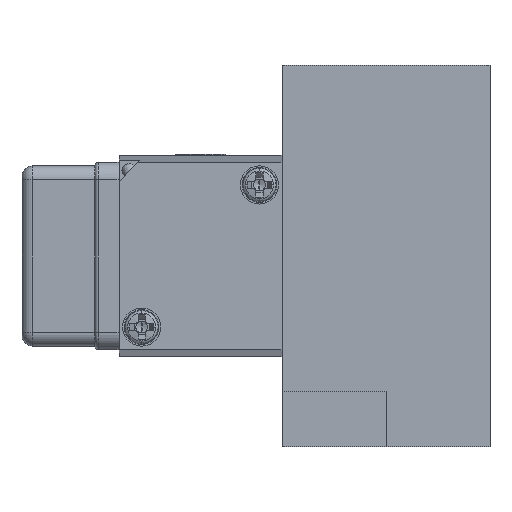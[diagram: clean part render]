
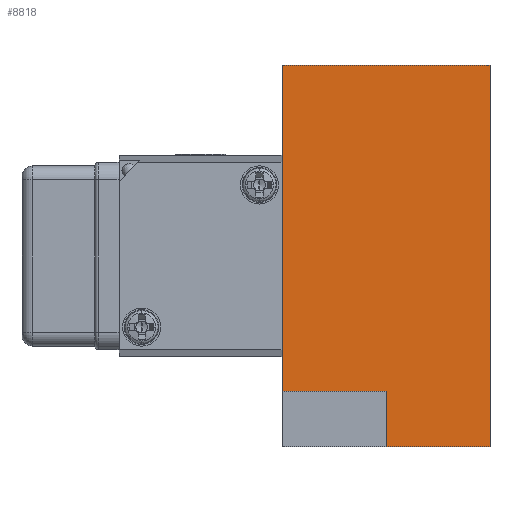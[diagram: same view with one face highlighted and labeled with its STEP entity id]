
A CAD part, left-side view. The second image highlights one B-rep face of the part: STEP entity #8818.
In plain terms, the highlighted planar face has unit normal (-1, 0, 0).
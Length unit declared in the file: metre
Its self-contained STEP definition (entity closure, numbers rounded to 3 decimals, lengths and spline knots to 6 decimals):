
#99 = ORIENTED_EDGE ( 'NONE', *, *, #844, .F. ) ;
#693 = VERTEX_POINT ( 'NONE', #12925 ) ;
#713 = CARTESIAN_POINT ( 'NONE',  ( -0.034, 0., 0. ) ) ;
#740 = EDGE_CURVE ( 'NONE', #10134, #4775, #10029, .T. ) ;
#800 = DIRECTION ( 'NONE',  ( 0., 0., 1. ) ) ;
#804 = EDGE_CURVE ( 'NONE', #4775, #693, #9133, .T. ) ;
#821 = LINE ( 'NONE', #1940, #3301 ) ;
#844 = EDGE_CURVE ( 'NONE', #2162, #10134, #821, .T. ) ;
#1090 = EDGE_CURVE ( 'NONE', #1776, #2162, #7794, .T. ) ;
#1110 = EDGE_CURVE ( 'NONE', #1776, #4323, #2172, .T. ) ;
#1112 = EDGE_CURVE ( 'NONE', #4323, #693, #9728, .T. ) ;
#1414 = CARTESIAN_POINT ( 'NONE',  ( -0.034, 0., -0.0195 ) ) ;
#1540 = DIRECTION ( 'NONE',  ( 0., 1., 0. ) ) ;
#1776 = VERTEX_POINT ( 'NONE', #5858 ) ;
#1830 = VECTOR ( 'NONE', #5567, 1. ) ;
#1849 = DIRECTION ( 'NONE',  ( 0., 1., 0. ) ) ;
#1940 = CARTESIAN_POINT ( 'NONE',  ( -0.034, 0., -0.0275 ) ) ;
#2162 = VERTEX_POINT ( 'NONE', #10746 ) ;
#2172 = LINE ( 'NONE', #5526, #7150 ) ;
#2178 = DIRECTION ( 'NONE',  ( 0., 0., -1. ) ) ;
#2363 = CARTESIAN_POINT ( 'NONE',  ( -0.034, 0., -0.0195 ) ) ;
#3301 = VECTOR ( 'NONE', #1849, 1. ) ;
#4323 = VERTEX_POINT ( 'NONE', #7653 ) ;
#4686 = ORIENTED_EDGE ( 'NONE', *, *, #804, .F. ) ;
#4775 = VERTEX_POINT ( 'NONE', #2363 ) ;
#5307 = CARTESIAN_POINT ( 'NONE',  ( -0.034, -0.015, 0. ) ) ;
#5355 = DIRECTION ( 'NONE',  ( 0., 0., -1. ) ) ;
#5358 = AXIS2_PLACEMENT_3D ( 'NONE', #10983, #8135, #2178 ) ;
#5402 = DIRECTION ( 'NONE',  ( 0., 1., 0. ) ) ;
#5491 = VECTOR ( 'NONE', #800, 1. ) ;
#5496 = CARTESIAN_POINT ( 'NONE',  ( -0.034, 0.015, 0. ) ) ;
#5526 = CARTESIAN_POINT ( 'NONE',  ( -0.034, 0., 0.0275 ) ) ;
#5567 = DIRECTION ( 'NONE',  ( 0., 0., -1. ) ) ;
#5858 = CARTESIAN_POINT ( 'NONE',  ( -0.034, -0.015, 0.0275 ) ) ;
#6181 = FACE_OUTER_BOUND ( 'NONE', #11357, .T. ) ;
#6553 = VECTOR ( 'NONE', #1540, 1. ) ;
#7150 = VECTOR ( 'NONE', #5402, 1. ) ;
#7562 = CARTESIAN_POINT ( 'NONE',  ( -0.034, 0., -0.0275 ) ) ;
#7653 = CARTESIAN_POINT ( 'NONE',  ( -0.034, 0.015, 0.0275 ) ) ;
#7794 = LINE ( 'NONE', #5307, #12595 ) ;
#7817 = ORIENTED_EDGE ( 'NONE', *, *, #1090, .F. ) ;
#8135 = DIRECTION ( 'NONE',  ( 1., 0., 0. ) ) ;
#8818 = ADVANCED_FACE ( 'NONE', ( #6181 ), #11949, .F. ) ;
#9133 = LINE ( 'NONE', #1414, #6553 ) ;
#9674 = ORIENTED_EDGE ( 'NONE', *, *, #1112, .T. ) ;
#9728 = LINE ( 'NONE', #5496, #1830 ) ;
#10029 = LINE ( 'NONE', #713, #5491 ) ;
#10134 = VERTEX_POINT ( 'NONE', #7562 ) ;
#10746 = CARTESIAN_POINT ( 'NONE',  ( -0.034, -0.015, -0.0275 ) ) ;
#10983 = CARTESIAN_POINT ( 'NONE',  ( -0.034, -0.015, 0.0275 ) ) ;
#11357 = EDGE_LOOP ( 'NONE', ( #4686, #12197, #99, #7817, #12069, #9674 ) ) ;
#11949 = PLANE ( 'NONE',  #5358 ) ;
#12069 = ORIENTED_EDGE ( 'NONE', *, *, #1110, .T. ) ;
#12197 = ORIENTED_EDGE ( 'NONE', *, *, #740, .F. ) ;
#12595 = VECTOR ( 'NONE', #5355, 1. ) ;
#12925 = CARTESIAN_POINT ( 'NONE',  ( -0.034, 0.015, -0.0195 ) ) ;
